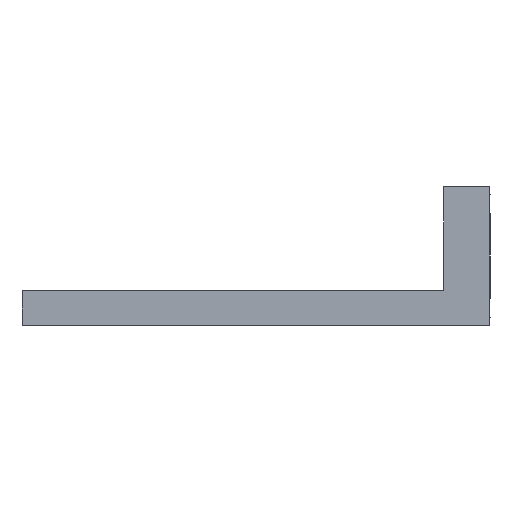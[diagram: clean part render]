
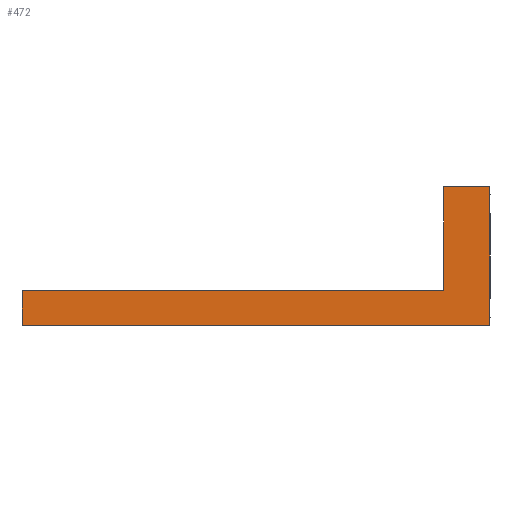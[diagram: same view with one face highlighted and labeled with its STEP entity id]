
A CAD part, left-side view. The second image highlights one B-rep face of the part: STEP entity #472.
In plain terms, the highlighted planar face has unit normal (-1, 0, 0).
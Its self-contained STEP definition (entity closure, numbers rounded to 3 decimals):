
#72 = CARTESIAN_POINT ( 'NONE',  ( -21., 81., 0. ) ) ;
#116 = VERTEX_POINT ( 'NONE', #1284 ) ;
#132 = VECTOR ( 'NONE', #377, 1000. ) ;
#135 = EDGE_LOOP ( 'NONE', ( #1712, #1171, #1450, #446, #514, #843 ) ) ;
#170 = CARTESIAN_POINT ( 'NONE',  ( -21., 8., 24. ) ) ;
#178 = DIRECTION ( 'NONE',  ( 0., 0., -1. ) ) ;
#222 = DIRECTION ( 'NONE',  ( 0., -1., 0. ) ) ;
#228 = LINE ( 'NONE', #1279, #413 ) ;
#237 = VECTOR ( 'NONE', #393, 1000. ) ;
#368 = DIRECTION ( 'NONE',  ( 0., 0., -1. ) ) ;
#377 = DIRECTION ( 'NONE',  ( 0., 0., -1. ) ) ;
#393 = DIRECTION ( 'NONE',  ( 0., -1., 0. ) ) ;
#413 = VECTOR ( 'NONE', #222, 1000. ) ;
#435 = VERTEX_POINT ( 'NONE', #619 ) ;
#446 = ORIENTED_EDGE ( 'NONE', *, *, #1040, .T. ) ;
#465 = VECTOR ( 'NONE', #1554, 1000. ) ;
#472 = ADVANCED_FACE ( 'NONE', ( #1455 ), #1599, .F. ) ;
#489 = CARTESIAN_POINT ( 'NONE',  ( -21., 0., 24. ) ) ;
#514 = ORIENTED_EDGE ( 'NONE', *, *, #691, .F. ) ;
#532 = CARTESIAN_POINT ( 'NONE',  ( -21., 8., 6. ) ) ;
#619 = CARTESIAN_POINT ( 'NONE',  ( -21., 8., 24. ) ) ;
#691 = EDGE_CURVE ( 'NONE', #116, #1026, #1197, .T. ) ;
#721 = LINE ( 'NONE', #1684, #465 ) ;
#780 = EDGE_CURVE ( 'NONE', #435, #1046, #836, .T. ) ;
#794 = LINE ( 'NONE', #1600, #132 ) ;
#836 = LINE ( 'NONE', #170, #941 ) ;
#841 = EDGE_CURVE ( 'NONE', #1237, #1046, #228, .T. ) ;
#843 = ORIENTED_EDGE ( 'NONE', *, *, #1558, .F. ) ;
#858 = VECTOR ( 'NONE', #178, 1000. ) ;
#941 = VECTOR ( 'NONE', #1101, 1000. ) ;
#1026 = VERTEX_POINT ( 'NONE', #1614 ) ;
#1040 = EDGE_CURVE ( 'NONE', #1685, #1026, #1471, .T. ) ;
#1046 = VERTEX_POINT ( 'NONE', #532 ) ;
#1052 = CARTESIAN_POINT ( 'NONE',  ( -21., 0., 0. ) ) ;
#1101 = DIRECTION ( 'NONE',  ( 0., 0., -1. ) ) ;
#1113 = CARTESIAN_POINT ( 'NONE',  ( -21., 81., 6. ) ) ;
#1171 = ORIENTED_EDGE ( 'NONE', *, *, #841, .F. ) ;
#1197 = LINE ( 'NONE', #1745, #858 ) ;
#1211 = EDGE_CURVE ( 'NONE', #1237, #1685, #794, .T. ) ;
#1225 = AXIS2_PLACEMENT_3D ( 'NONE', #489, #1591, #368 ) ;
#1237 = VERTEX_POINT ( 'NONE', #1113 ) ;
#1279 = CARTESIAN_POINT ( 'NONE',  ( -21., 0., 6. ) ) ;
#1284 = CARTESIAN_POINT ( 'NONE',  ( -21., 0., 24. ) ) ;
#1450 = ORIENTED_EDGE ( 'NONE', *, *, #1211, .T. ) ;
#1455 = FACE_OUTER_BOUND ( 'NONE', #135, .T. ) ;
#1471 = LINE ( 'NONE', #1052, #237 ) ;
#1554 = DIRECTION ( 'NONE',  ( 0., -1., 0. ) ) ;
#1558 = EDGE_CURVE ( 'NONE', #435, #116, #721, .T. ) ;
#1591 = DIRECTION ( 'NONE',  ( 1., 0., 0. ) ) ;
#1599 = PLANE ( 'NONE',  #1225 ) ;
#1600 = CARTESIAN_POINT ( 'NONE',  ( -21., 81., 6. ) ) ;
#1614 = CARTESIAN_POINT ( 'NONE',  ( -21., 0., 0. ) ) ;
#1684 = CARTESIAN_POINT ( 'NONE',  ( -21., 0., 24. ) ) ;
#1685 = VERTEX_POINT ( 'NONE', #72 ) ;
#1712 = ORIENTED_EDGE ( 'NONE', *, *, #780, .T. ) ;
#1745 = CARTESIAN_POINT ( 'NONE',  ( -21., 0., 24. ) ) ;
